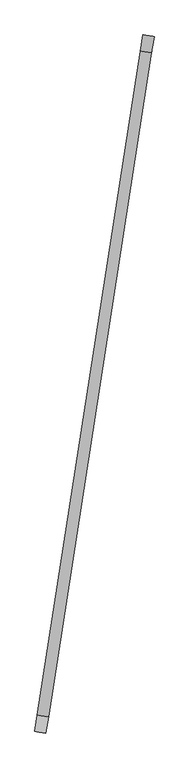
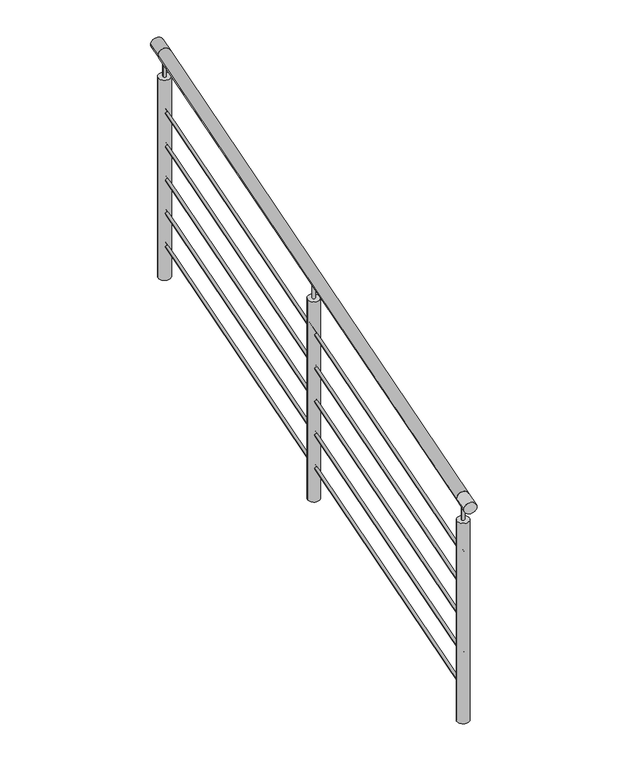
"""IFC4 building model written with IfcOpenShell, lengths in millimetres: railing geometry, Barandal acero inox - sobre balcón."""

from ifc_helpers import new_model, si_unit, point, frame, frame_2d, origin, origin_2d, place, context, project, spatial, circle_curve, trimmed, segment, composite_curve, outline, extrude, source, transform, mapped, element, save


def railing_c727465c(model_context):
    return source(origin(), model_context, "Body", "SweptSolid", [
        extrude(outline(composite_curve([segment(trimmed(circle_curve(origin_2d(), 25.4), [point((-25.4, 0.0))], [point((25.4, 0.0))], False, "CARTESIAN"), True, "CONTINUOUS"), segment(trimmed(circle_curve(origin_2d(), 25.4), [point((25.4, 0.0))], [point((-25.4, 0.0))], False, "CARTESIAN"), True, "CONTINUOUS")], self_intersect=False)), frame((-33520.5298956, -69373.4813061, 850.0), z_axis=(0.15400987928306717, 0.9880693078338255, 0.0), x_axis=(0.9880693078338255, -0.15400987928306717, 0.0)), (0.0, 0.0, 1.0), 3049.0611062),
        extrude(outline(composite_curve([segment(trimmed(circle_curve(origin_2d(), 6.35), [point((-6.35, 0.0))], [point((6.35, 0.0))], False, "CARTESIAN"), True, "CONTINUOUS"), segment(trimmed(circle_curve(origin_2d(), 6.35), [point((6.35, 0.0))], [point((-6.35, 0.0))], False, "CARTESIAN"), True, "CONTINUOUS")], self_intersect=False)), frame((-33520.5298956, -69373.4813061, 600.0), z_axis=(0.15400987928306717, 0.9880693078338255, 0.0), x_axis=(0.9880693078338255, -0.15400987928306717, 0.0)), (0.0, 0.0, 1.0), 3049.0611062),
        extrude(outline(composite_curve([segment(trimmed(circle_curve(origin_2d(), 6.35), [point((-6.35, 0.0))], [point((6.35, 0.0))], False, "CARTESIAN"), True, "CONTINUOUS"), segment(trimmed(circle_curve(origin_2d(), 6.35), [point((6.35, 0.0))], [point((-6.35, 0.0))], False, "CARTESIAN"), True, "CONTINUOUS")], self_intersect=False)), frame((-33520.5298956, -69373.4813061, 450.0), z_axis=(0.15400987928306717, 0.9880693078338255, 0.0), x_axis=(0.9880693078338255, -0.15400987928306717, 0.0)), (0.0, 0.0, 1.0), 3049.0611062),
        extrude(outline(composite_curve([segment(trimmed(circle_curve(origin_2d(), 6.35), [point((-6.35, 0.0))], [point((6.35, 0.0))], False, "CARTESIAN"), True, "CONTINUOUS"), segment(trimmed(circle_curve(origin_2d(), 6.35), [point((6.35, 0.0))], [point((-6.35, 0.0))], False, "CARTESIAN"), True, "CONTINUOUS")], self_intersect=False)), frame((-33520.5298956, -69373.4813061, 300.0), z_axis=(0.15400987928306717, 0.9880693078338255, 0.0), x_axis=(0.9880693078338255, -0.15400987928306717, 0.0)), (0.0, 0.0, 1.0), 3049.0611062),
        extrude(outline(composite_curve([segment(trimmed(circle_curve(origin_2d(), 6.35), [point((-6.35, 0.0))], [point((6.35, 0.0))], False, "CARTESIAN"), True, "CONTINUOUS"), segment(trimmed(circle_curve(origin_2d(), 6.35), [point((6.35, 0.0))], [point((-6.35, 0.0))], False, "CARTESIAN"), True, "CONTINUOUS")], self_intersect=False)), frame((-33520.5298956, -69373.4813061, 150.0), z_axis=(0.15400987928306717, 0.9880693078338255, 0.0), x_axis=(0.9880693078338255, -0.15400987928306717, 0.0)), (0.0, 0.0, 1.0), 3049.0611062),
        extrude(outline(composite_curve([segment(trimmed(circle_curve(origin_2d(), 6.35), [point((-6.35, 0.0))], [point((6.35, 0.0))], False, "CARTESIAN"), True, "CONTINUOUS"), segment(trimmed(circle_curve(origin_2d(), 6.35), [point((6.35, 0.0))], [point((-6.35, 0.0))], False, "CARTESIAN"), True, "CONTINUOUS")], self_intersect=False)), frame((-33520.5298956, -69373.4813061, 0.0), z_axis=(0.15400987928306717, 0.9880693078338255, 0.0), x_axis=(0.9880693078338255, -0.15400987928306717, 0.0)), (0.0, 0.0, 1.0), 3049.0611062),
        extrude(outline(composite_curve([segment(trimmed(circle_curve(frame_2d((-33285.7371291, -67867.1394578)), 6.35), [point((-33279.462889, -67868.1174205))], [point((-33292.0113692, -67866.161495))], False, "CARTESIAN"), True, "CONTINUOUS"), segment(trimmed(circle_curve(frame_2d((-33285.7371291, -67867.1394578)), 6.35), [point((-33292.0113692, -67866.161495))], [point((-33279.462889, -67868.1174205))], False, "CARTESIAN"), True, "CONTINUOUS")], self_intersect=False)), frame((0.0, 0.0, 749.6), z_axis=(0.0, 0.0, 1.0), x_axis=(1.0, 0.0, 0.0)), (0.0, 0.0, 1.0), 75.0),
        extrude(outline(composite_curve([segment(trimmed(circle_curve(frame_2d((-33285.7371291, -67867.1394578)), 25.4), [point((-33260.6401687, -67871.0513087))], [point((-33310.8340895, -67863.2276068))], False, "CARTESIAN"), True, "CONTINUOUS"), segment(trimmed(circle_curve(frame_2d((-33285.7371291, -67867.1394578)), 25.4), [point((-33310.8340895, -67863.2276068))], [point((-33260.6401687, -67871.0513087))], False, "CARTESIAN"), True, "CONTINUOUS")], self_intersect=False)), frame((0.0, 0.0, -150.0), z_axis=(0.0, 0.0, 1.0), x_axis=(1.0, 0.0, 0.0)), (0.0, 0.0, 1.0), 899.6),
        extrude(outline(composite_curve([segment(trimmed(circle_curve(frame_2d((0.0, 25.4)), 25.4), [point((0.0, 50.8))], [point((0.0, 0.0))], False, "CARTESIAN"), True, "CONTINUOUS"), segment(trimmed(circle_curve(frame_2d((0.0, 25.4)), 25.4), [point((0.0, 0.0))], [point((0.0, 50.8))], False, "CARTESIAN"), True, "CONTINUOUS")], self_intersect=False)), frame((-33557.1775969, -69443.6746533, 850.0), z_axis=(0.15400987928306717, 0.9880693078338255, 0.0), x_axis=(0.0, 0.0, 1.0)), (0.0, 0.0, 1.0), 75.0),
        extrude(outline(composite_curve([segment(trimmed(circle_curve(frame_2d((-33520.5298956, -69373.4813061)), 6.35), [point((-33514.2556555, -69374.4592689))], [point((-33526.8041357, -69372.5033434))], False, "CARTESIAN"), True, "CONTINUOUS"), segment(trimmed(circle_curve(frame_2d((-33520.5298956, -69373.4813061)), 6.35), [point((-33526.8041357, -69372.5033434))], [point((-33514.2556555, -69374.4592689))], False, "CARTESIAN"), True, "CONTINUOUS")], self_intersect=False)), frame((0.0, 0.0, 749.6), z_axis=(0.0, 0.0, 1.0), x_axis=(1.0, 0.0, 0.0)), (0.0, 0.0, 1.0), 75.0),
        extrude(outline(composite_curve([segment(trimmed(circle_curve(frame_2d((-33520.5298956, -69373.4813061)), 25.4), [point((-33495.4329352, -69377.3931571))], [point((-33545.626856, -69369.5694552))], False, "CARTESIAN"), True, "CONTINUOUS"), segment(trimmed(circle_curve(frame_2d((-33520.5298956, -69373.4813061)), 25.4), [point((-33545.626856, -69369.5694552))], [point((-33495.4329352, -69377.3931571))], False, "CARTESIAN"), True, "CONTINUOUS")], self_intersect=False)), frame((0.0, 0.0, -150.0), z_axis=(0.0, 0.0, 1.0), x_axis=(1.0, 0.0, 0.0)), (0.0, 0.0, 1.0), 899.6),
        extrude(outline(composite_curve([segment(trimmed(circle_curve(frame_2d((0.0, 25.4)), 25.4), [point((0.0, 50.8))], [point((0.0, 0.0))], False, "CARTESIAN"), True, "CONTINUOUS"), segment(trimmed(circle_curve(frame_2d((0.0, 25.4)), 25.4), [point((0.0, 0.0))], [point((0.0, 50.8))], False, "CARTESIAN"), True, "CONTINUOUS")], self_intersect=False)), frame((-33076.0413231, -66356.8857585, 850.0), z_axis=(0.15400987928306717, 0.9880693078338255, 0.0), x_axis=(0.0, 0.0, 1.0)), (0.0, 0.0, 1.0), 75.0),
        extrude(outline(composite_curve([segment(trimmed(circle_curve(frame_2d((-33050.9443627, -66360.7976094)), 6.35), [point((-33044.6701226, -66361.7755721))], [point((-33057.2186028, -66359.8196467))], False, "CARTESIAN"), True, "CONTINUOUS"), segment(trimmed(circle_curve(frame_2d((-33050.9443627, -66360.7976094)), 6.35), [point((-33057.2186028, -66359.8196467))], [point((-33044.6701226, -66361.7755721))], False, "CARTESIAN"), True, "CONTINUOUS")], self_intersect=False)), frame((0.0, 0.0, 749.6), z_axis=(0.0, 0.0, 1.0), x_axis=(1.0, 0.0, 0.0)), (0.0, 0.0, 1.0), 75.0),
        extrude(outline(composite_curve([segment(trimmed(circle_curve(frame_2d((-33050.9443627, -66360.7976094)), 25.4), [point((-33025.8474023, -66364.7094603))], [point((-33076.0413231, -66356.8857585))], False, "CARTESIAN"), True, "CONTINUOUS"), segment(trimmed(circle_curve(frame_2d((-33050.9443627, -66360.7976094)), 25.4), [point((-33076.0413231, -66356.8857585))], [point((-33025.8474023, -66364.7094603))], False, "CARTESIAN"), True, "CONTINUOUS")], self_intersect=False)), frame((0.0, 0.0, -150.0), z_axis=(0.0, 0.0, 1.0), x_axis=(1.0, 0.0, 0.0)), (0.0, 0.0, 1.0), 899.6),
    ])


if __name__ == "__main__":
    model = new_model("IFC4")
    model_context = context("Model", 3, world=origin())
    ifc_project = project(units=[si_unit("LENGTHUNIT", "METRE", prefix="MILLI")], contexts=[model_context])
    site = spatial("IfcSite", under=ifc_project)
    building = spatial("IfcBuilding", under=site)
    placement = place(None, origin())
    railing_shape = railing_c727465c(model_context)
    element("IfcRailing", 1, ObjectType="Barandal acero inox - sobre balcón", at=placement, inside=building, context=model_context, shape_type="MappedRepresentation", body=[
        mapped(railing_shape, transform((0.0, 0.0, 0.0), x_axis=(1.0, 0.0, 0.0), y_axis=(0.0, 1.0, 0.0), z_axis=(0.0, 0.0, 1.0))),
    ])
    save(model, "model.ifc")
